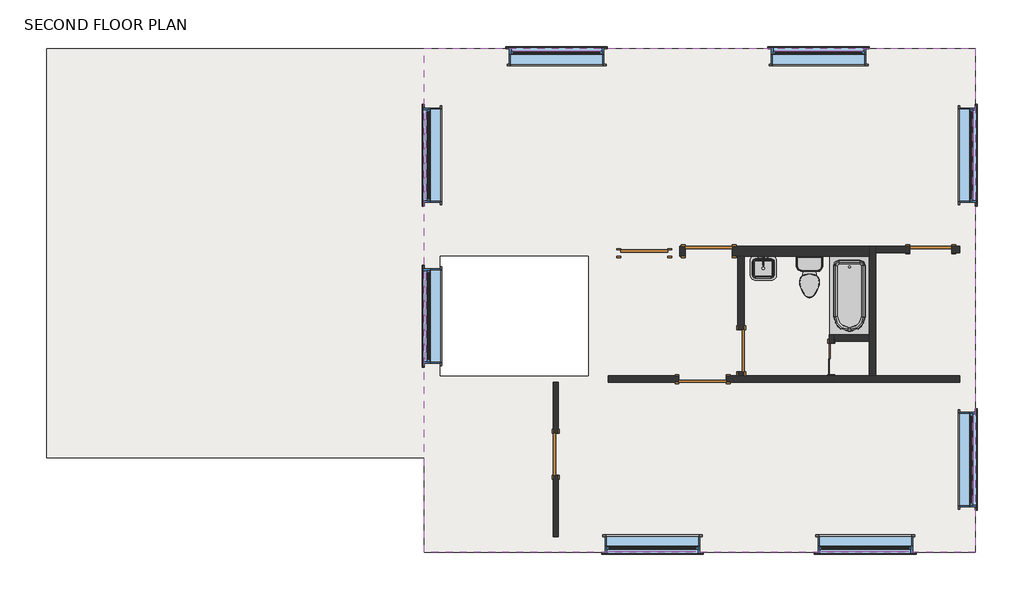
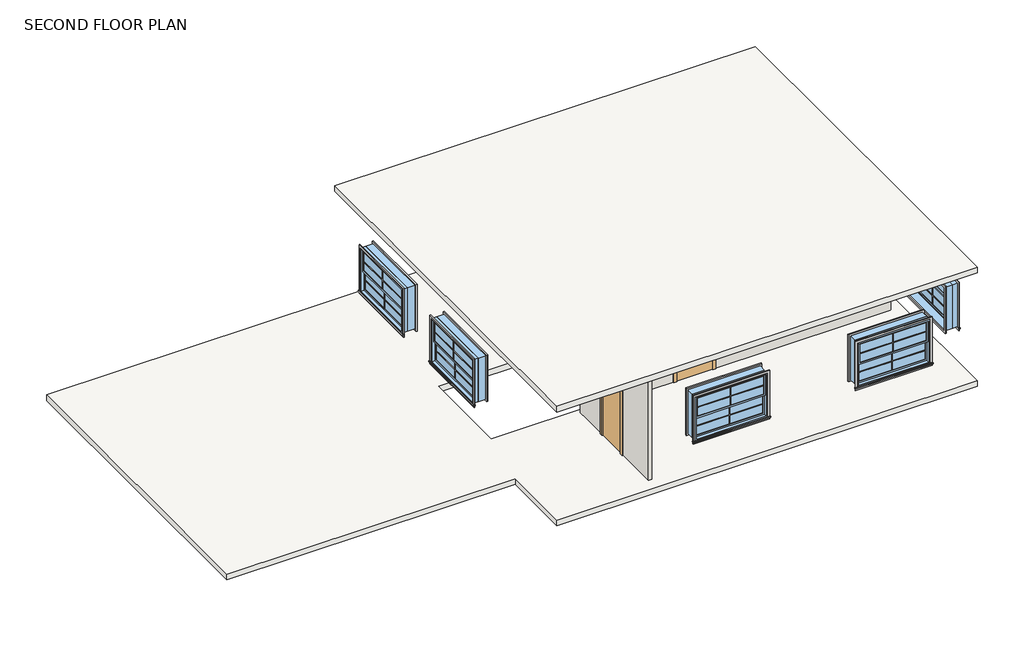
# One storey: 32 proxies, 8 walls, 8 windows, 7 doors, 3 flow terminals, 2 slabs.
"""IFC4 building model written with IfcOpenShell, lengths in millimetres."""

from ifc_helpers import new_model, si_unit, frame, origin, place, context, project, spatial, polyline, outline, extrude, faceted_brep, transform, mapped, element, save
from components import muntin_pattern_2x2_muntin_pattern_2x2_39947d6e, muntin_pattern_2x2_muntin_pattern_2x2_fe1a6047, trim_window_exterior_flat_with_sill_0b531897, trim_window_exterior_flat_with_sill_ab25b066, trim_window_interior_flat_picture_frame_a9dea4fc, trim_window_interior_flat_picture_frame_6e5e5000, door_d2b762fc, door_3875bb2d, door_e975d77b, m_single_flush_3_x_7_d4803db9, m_single_flush_3_x_7_66516a20, m_single_flush_3_x_7_38056b6e, flow_terminal_62a433f7, toilet_domestic_3d1_toilet_domestic_3d_f7549cf7, toilet_domestic_3d1_toilet_domestic_3d_183bbd19, tub_rectangular_3d_tub_rectangular_5_7cde22e7, window_double_hung_6_window_203ecefd, window_double_hung_6_window_37ab507d

model = new_model("IFC4")

# Units and contexts
model_context = context("Model", 3, world=origin())
ifc_project = project(units=[si_unit("LENGTHUNIT", "METRE", prefix="MILLI")], contexts=[model_context])

# Site, building, storey
site = spatial("IfcSite", under=ifc_project)
building = spatial("IfcBuilding", under=site)
storey = spatial("IfcBuildingStorey", under=building, Name="SECOND FLOOR PLAN", Elevation=2844.8)

# Proxies
placement = place(None, origin())
muntin_pattern_2x2_muntin_pattern_2x2_shape = muntin_pattern_2x2_muntin_pattern_2x2_39947d6e(model_context)
element("IfcBuildingElementProxy", 1, Name="Muntin Pattern_2x2 : Muntin Pattern_2x2", ObjectType="Muntin Pattern_2x2 : Muntin Pattern_2x2", at=placement, inside=storey, context=model_context, shape_type="MappedRepresentation", body=[
    mapped(muntin_pattern_2x2_muntin_pattern_2x2_shape, transform((11199.0504798, 8523.8490306, 4365.625), x_axis=(0.0, -1.0, 0.0), y_axis=(1.0, 0.0, 0.0), z_axis=(0.0, 0.0, 1.0))),
])
element("IfcBuildingElementProxy", 2, Name="Muntin Pattern_2x2 : Muntin Pattern_2x2", ObjectType="Muntin Pattern_2x2 : Muntin Pattern_2x2", at=placement, inside=storey, context=model_context, shape_type="MappedRepresentation", body=[
    mapped(muntin_pattern_2x2_muntin_pattern_2x2_shape, transform((11243.5004798, 8523.8490306, 3835.4), x_axis=(0.0, -1.0, 0.0), y_axis=(1.0, 0.0, 0.0), z_axis=(0.0, 0.0, 1.0))),
])
muntin_pattern_2x2_muntin_pattern_2x2_2_shape = muntin_pattern_2x2_muntin_pattern_2x2_fe1a6047(model_context)
element("IfcBuildingElementProxy", 3, Name="Muntin Pattern_2x2 : Muntin Pattern_2x2", ObjectType="Muntin Pattern_2x2 : Muntin Pattern_2x2", at=placement, inside=storey, context=model_context, shape_type="MappedRepresentation", body=[
    mapped(muntin_pattern_2x2_muntin_pattern_2x2_2_shape, transform((18795.0737197, 13670.5240306, 4365.625), x_axis=(1.0, 0.0, 0.0), y_axis=(0.0, 1.0, 0.0), z_axis=(0.0, 0.0, 1.0))),
])
element("IfcBuildingElementProxy", 4, Name="Muntin Pattern_2x2 : Muntin Pattern_2x2", ObjectType="Muntin Pattern_2x2 : Muntin Pattern_2x2", at=placement, inside=storey, context=model_context, shape_type="MappedRepresentation", body=[
    mapped(muntin_pattern_2x2_muntin_pattern_2x2_2_shape, transform((18795.0737197, 13626.0740306, 3835.4), x_axis=(1.0, 0.0, 0.0), y_axis=(0.0, 1.0, 0.0), z_axis=(0.0, 0.0, 1.0))),
])
element("IfcBuildingElementProxy", 5, Name="Muntin Pattern_2x2 : Muntin Pattern_2x2", ObjectType="Muntin Pattern_2x2 : Muntin Pattern_2x2", at=placement, inside=storey, context=model_context, shape_type="MappedRepresentation", body=[
    mapped(muntin_pattern_2x2_muntin_pattern_2x2_2_shape, transform((13723.9692298, 13670.5240306, 4365.625), x_axis=(1.0, 0.0, 0.0), y_axis=(0.0, 1.0, 0.0), z_axis=(0.0, 0.0, 1.0))),
])
element("IfcBuildingElementProxy", 6, Name="Muntin Pattern_2x2 : Muntin Pattern_2x2", ObjectType="Muntin Pattern_2x2 : Muntin Pattern_2x2", at=placement, inside=storey, context=model_context, shape_type="MappedRepresentation", body=[
    mapped(muntin_pattern_2x2_muntin_pattern_2x2_2_shape, transform((13723.9692298, 13626.0740306, 3835.4), x_axis=(1.0, 0.0, 0.0), y_axis=(0.0, 1.0, 0.0), z_axis=(0.0, 0.0, 1.0))),
])
element("IfcBuildingElementProxy", 7, Name="Muntin Pattern_2x2 : Muntin Pattern_2x2", ObjectType="Muntin Pattern_2x2 : Muntin Pattern_2x2", at=placement, inside=storey, context=model_context, shape_type="MappedRepresentation", body=[
    mapped(muntin_pattern_2x2_muntin_pattern_2x2_2_shape, transform((19698.5254798, 3986.7740306, 4365.625), x_axis=(-1.0, 0.0, 0.0), y_axis=(0.0, -1.0, 0.0), z_axis=(0.0, 0.0, 1.0))),
])
element("IfcBuildingElementProxy", 8, Name="Muntin Pattern_2x2 : Muntin Pattern_2x2", ObjectType="Muntin Pattern_2x2 : Muntin Pattern_2x2", at=placement, inside=storey, context=model_context, shape_type="MappedRepresentation", body=[
    mapped(muntin_pattern_2x2_muntin_pattern_2x2_2_shape, transform((19698.5254798, 4031.2240306, 3835.4), x_axis=(-1.0, 0.0, 0.0), y_axis=(0.0, -1.0, 0.0), z_axis=(0.0, 0.0, 1.0))),
])
element("IfcBuildingElementProxy", 9, Name="Muntin Pattern_2x2 : Muntin Pattern_2x2", ObjectType="Muntin Pattern_2x2 : Muntin Pattern_2x2", at=placement, inside=storey, context=model_context, shape_type="MappedRepresentation", body=[
    mapped(muntin_pattern_2x2_muntin_pattern_2x2_2_shape, transform((15579.677093, 3986.7740306, 4365.625), x_axis=(-1.0, 0.0, 0.0), y_axis=(0.0, -1.0, 0.0), z_axis=(0.0, 0.0, 1.0))),
])
element("IfcBuildingElementProxy", 10, Name="Muntin Pattern_2x2 : Muntin Pattern_2x2", ObjectType="Muntin Pattern_2x2 : Muntin Pattern_2x2", at=placement, inside=storey, context=model_context, shape_type="MappedRepresentation", body=[
    mapped(muntin_pattern_2x2_muntin_pattern_2x2_2_shape, transform((15579.677093, 4031.2240306, 3835.4), x_axis=(-1.0, 0.0, 0.0), y_axis=(0.0, -1.0, 0.0), z_axis=(0.0, 0.0, 1.0))),
])
element("IfcBuildingElementProxy", 11, Name="Muntin Pattern_2x2 : Muntin Pattern_2x2", ObjectType="Muntin Pattern_2x2 : Muntin Pattern_2x2", at=placement, inside=storey, context=model_context, shape_type="MappedRepresentation", body=[
    mapped(muntin_pattern_2x2_muntin_pattern_2x2_2_shape, transform((21797.2004798, 5749.6927806, 4365.625), x_axis=(0.0, -1.0, 0.0), y_axis=(1.0, 0.0, 0.0), z_axis=(0.0, 0.0, 1.0))),
])
element("IfcBuildingElementProxy", 12, Name="Muntin Pattern_2x2 : Muntin Pattern_2x2", ObjectType="Muntin Pattern_2x2 : Muntin Pattern_2x2", at=placement, inside=storey, context=model_context, shape_type="MappedRepresentation", body=[
    mapped(muntin_pattern_2x2_muntin_pattern_2x2_2_shape, transform((21752.7504798, 5749.6927806, 3835.4), x_axis=(0.0, -1.0, 0.0), y_axis=(1.0, 0.0, 0.0), z_axis=(0.0, 0.0, 1.0))),
])
element("IfcBuildingElementProxy", 13, Name="Muntin Pattern_2x2 : Muntin Pattern_2x2", ObjectType="Muntin Pattern_2x2 : Muntin Pattern_2x2", at=placement, inside=storey, context=model_context, shape_type="MappedRepresentation", body=[
    mapped(muntin_pattern_2x2_muntin_pattern_2x2_2_shape, transform((21797.2004798, 11639.3177806, 4365.625), x_axis=(0.0, -1.0, 0.0), y_axis=(1.0, 0.0, 0.0), z_axis=(0.0, 0.0, 1.0))),
])
element("IfcBuildingElementProxy", 14, Name="Muntin Pattern_2x2 : Muntin Pattern_2x2", ObjectType="Muntin Pattern_2x2 : Muntin Pattern_2x2", at=placement, inside=storey, context=model_context, shape_type="MappedRepresentation", body=[
    mapped(muntin_pattern_2x2_muntin_pattern_2x2_2_shape, transform((21752.7504798, 11639.3177806, 3835.4), x_axis=(0.0, -1.0, 0.0), y_axis=(1.0, 0.0, 0.0), z_axis=(0.0, 0.0, 1.0))),
])
element("IfcBuildingElementProxy", 15, Name="Muntin Pattern_2x2 : Muntin Pattern_2x2", ObjectType="Muntin Pattern_2x2 : Muntin Pattern_2x2", at=placement, inside=storey, context=model_context, shape_type="MappedRepresentation", body=[
    mapped(muntin_pattern_2x2_muntin_pattern_2x2_2_shape, transform((11199.0504798, 11639.3177806, 4365.625), x_axis=(0.0, 1.0, 0.0), y_axis=(-1.0, 0.0, 0.0), z_axis=(0.0, 0.0, 1.0))),
])
element("IfcBuildingElementProxy", 16, Name="Muntin Pattern_2x2 : Muntin Pattern_2x2", ObjectType="Muntin Pattern_2x2 : Muntin Pattern_2x2", at=placement, inside=storey, context=model_context, shape_type="MappedRepresentation", body=[
    mapped(muntin_pattern_2x2_muntin_pattern_2x2_2_shape, transform((11243.5004798, 11639.3177806, 3835.4), x_axis=(0.0, 1.0, 0.0), y_axis=(-1.0, 0.0, 0.0), z_axis=(0.0, 0.0, 1.0))),
])
trim_window_exterior_flat_with_sill_shape = trim_window_exterior_flat_with_sill_0b531897(model_context)
element("IfcBuildingElementProxy", 17, Name="Trim-Window-Exterior-Flat : with Sill", ObjectType="Trim-Window-Exterior-Flat : with Sill", at=placement, inside=storey, context=model_context, shape_type="MappedRepresentation", body=[
    mapped(trim_window_exterior_flat_with_sill_shape, transform((11164.1254798, 8523.8490306, 4927.6), x_axis=(0.0, 1.0, 0.0), y_axis=(0.0, 0.0, -1.0), z_axis=(-1.0, 0.0, 0.0))),
])
trim_window_exterior_flat_with_sill_2_shape = trim_window_exterior_flat_with_sill_ab25b066(model_context)
element("IfcBuildingElementProxy", 18, Name="Trim-Window-Exterior-Flat : with Sill", ObjectType="Trim-Window-Exterior-Flat : with Sill", at=placement, inside=storey, context=model_context, shape_type="MappedRepresentation", body=[
    mapped(trim_window_exterior_flat_with_sill_2_shape, transform((18795.0737197, 13705.4490306, 4927.6), x_axis=(-1.0, 0.0, 0.0), y_axis=(0.0, 0.0, 1.0), z_axis=(0.0, 1.0, 0.0))),
])
element("IfcBuildingElementProxy", 19, Name="Trim-Window-Exterior-Flat : with Sill", ObjectType="Trim-Window-Exterior-Flat : with Sill", at=placement, inside=storey, context=model_context, shape_type="MappedRepresentation", body=[
    mapped(trim_window_exterior_flat_with_sill_2_shape, transform((13723.9692298, 13705.4490306, 4927.6), x_axis=(-1.0, 0.0, 0.0), y_axis=(0.0, 0.0, 1.0), z_axis=(0.0, 1.0, 0.0))),
])
element("IfcBuildingElementProxy", 20, Name="Trim-Window-Exterior-Flat : with Sill", ObjectType="Trim-Window-Exterior-Flat : with Sill", at=placement, inside=storey, context=model_context, shape_type="MappedRepresentation", body=[
    mapped(trim_window_exterior_flat_with_sill_2_shape, transform((19698.5254798, 3951.8490306, 4927.6), x_axis=(1.0, 0.0, 0.0), y_axis=(0.0, 0.0, 1.0), z_axis=(0.0, -1.0, 0.0))),
])
element("IfcBuildingElementProxy", 21, Name="Trim-Window-Exterior-Flat : with Sill", ObjectType="Trim-Window-Exterior-Flat : with Sill", at=placement, inside=storey, context=model_context, shape_type="MappedRepresentation", body=[
    mapped(trim_window_exterior_flat_with_sill_2_shape, transform((15579.677093, 3951.8490306, 4927.6), x_axis=(1.0, 0.0, 0.0), y_axis=(0.0, 0.0, 1.0), z_axis=(0.0, -1.0, 0.0))),
])
element("IfcBuildingElementProxy", 22, Name="Trim-Window-Exterior-Flat : with Sill", ObjectType="Trim-Window-Exterior-Flat : with Sill", at=placement, inside=storey, context=model_context, shape_type="MappedRepresentation", body=[
    mapped(trim_window_exterior_flat_with_sill_2_shape, transform((21832.1254798, 5749.6927806, 4927.6), x_axis=(0.0, 1.0, 0.0), y_axis=(0.0, 0.0, 1.0), z_axis=(1.0, 0.0, 0.0))),
])
element("IfcBuildingElementProxy", 23, Name="Trim-Window-Exterior-Flat : with Sill", ObjectType="Trim-Window-Exterior-Flat : with Sill", at=placement, inside=storey, context=model_context, shape_type="MappedRepresentation", body=[
    mapped(trim_window_exterior_flat_with_sill_2_shape, transform((21832.1254798, 11639.3177806, 4927.6), x_axis=(0.0, 1.0, 0.0), y_axis=(0.0, 0.0, 1.0), z_axis=(1.0, 0.0, 0.0))),
])
element("IfcBuildingElementProxy", 24, Name="Trim-Window-Exterior-Flat : with Sill", ObjectType="Trim-Window-Exterior-Flat : with Sill", at=placement, inside=storey, context=model_context, shape_type="MappedRepresentation", body=[
    mapped(trim_window_exterior_flat_with_sill_2_shape, transform((11164.1254798, 11639.3177806, 4927.6), x_axis=(0.0, -1.0, 0.0), y_axis=(0.0, 0.0, 1.0), z_axis=(-1.0, 0.0, 0.0))),
])
trim_window_interior_flat_picture_frame_shape = trim_window_interior_flat_picture_frame_a9dea4fc(model_context)
element("IfcBuildingElementProxy", 25, Name="Trim-Window-Interior-Flat : Picture Frame", ObjectType="Trim-Window-Interior-Flat : Picture Frame", at=placement, inside=storey, context=model_context, shape_type="MappedRepresentation", body=[
    mapped(trim_window_interior_flat_picture_frame_shape, transform((11468.9254798, 8523.8490306, 4927.6), x_axis=(0.0, -1.0, 0.0), y_axis=(0.0, 0.0, -1.0), z_axis=(1.0, 0.0, 0.0))),
])
trim_window_interior_flat_picture_frame_2_shape = trim_window_interior_flat_picture_frame_6e5e5000(model_context)
element("IfcBuildingElementProxy", 26, Name="Trim-Window-Interior-Flat : Picture Frame", ObjectType="Trim-Window-Interior-Flat : Picture Frame", at=placement, inside=storey, context=model_context, shape_type="MappedRepresentation", body=[
    mapped(trim_window_interior_flat_picture_frame_2_shape, transform((18795.0737197, 13400.6490306, 4927.6), x_axis=(1.0, 0.0, 0.0), y_axis=(0.0, 0.0, 1.0), z_axis=(0.0, -1.0, 0.0))),
])
element("IfcBuildingElementProxy", 27, Name="Trim-Window-Interior-Flat : Picture Frame", ObjectType="Trim-Window-Interior-Flat : Picture Frame", at=placement, inside=storey, context=model_context, shape_type="MappedRepresentation", body=[
    mapped(trim_window_interior_flat_picture_frame_2_shape, transform((13723.9692298, 13400.6490306, 4927.6), x_axis=(1.0, 0.0, 0.0), y_axis=(0.0, 0.0, 1.0), z_axis=(0.0, -1.0, 0.0))),
])
element("IfcBuildingElementProxy", 28, Name="Trim-Window-Interior-Flat : Picture Frame", ObjectType="Trim-Window-Interior-Flat : Picture Frame", at=placement, inside=storey, context=model_context, shape_type="MappedRepresentation", body=[
    mapped(trim_window_interior_flat_picture_frame_2_shape, transform((19698.5254798, 4256.6490306, 4927.6), x_axis=(-1.0, 0.0, 0.0), y_axis=(0.0, 0.0, 1.0), z_axis=(0.0, 1.0, 0.0))),
])
element("IfcBuildingElementProxy", 29, Name="Trim-Window-Interior-Flat : Picture Frame", ObjectType="Trim-Window-Interior-Flat : Picture Frame", at=placement, inside=storey, context=model_context, shape_type="MappedRepresentation", body=[
    mapped(trim_window_interior_flat_picture_frame_2_shape, transform((15579.677093, 4256.6490306, 4927.6), x_axis=(-1.0, 0.0, 0.0), y_axis=(0.0, 0.0, 1.0), z_axis=(0.0, 1.0, 0.0))),
])
element("IfcBuildingElementProxy", 30, Name="Trim-Window-Interior-Flat : Picture Frame", ObjectType="Trim-Window-Interior-Flat : Picture Frame", at=placement, inside=storey, context=model_context, shape_type="MappedRepresentation", body=[
    mapped(trim_window_interior_flat_picture_frame_2_shape, transform((21527.3254798, 5749.6927806, 4927.6), x_axis=(0.0, -1.0, 0.0), y_axis=(0.0, 0.0, 1.0), z_axis=(-1.0, 0.0, 0.0))),
])
element("IfcBuildingElementProxy", 31, Name="Trim-Window-Interior-Flat : Picture Frame", ObjectType="Trim-Window-Interior-Flat : Picture Frame", at=placement, inside=storey, context=model_context, shape_type="MappedRepresentation", body=[
    mapped(trim_window_interior_flat_picture_frame_2_shape, transform((21527.3254798, 11639.3177806, 4927.6), x_axis=(0.0, -1.0, 0.0), y_axis=(0.0, 0.0, 1.0), z_axis=(-1.0, 0.0, 0.0))),
])
element("IfcBuildingElementProxy", 32, Name="Trim-Window-Interior-Flat : Picture Frame", ObjectType="Trim-Window-Interior-Flat : Picture Frame", at=placement, inside=storey, context=model_context, shape_type="MappedRepresentation", body=[
    mapped(trim_window_interior_flat_picture_frame_2_shape, transform((11468.9254798, 11639.3177806, 4927.6), x_axis=(0.0, 1.0, 0.0), y_axis=(0.0, 0.0, 1.0), z_axis=(1.0, 0.0, 0.0))),
])

# Doors
door_shape = door_d2b762fc(model_context)
element("IfcDoor", 33, ObjectType="Door-Bifold_2-Panel_Flush_SlimFold_Dunbarton : 2' - 0\" x 6' - 8\"", at=placement, inside=storey, context=model_context, shape_type="MappedRepresentation", body=[
    mapped(door_shape, transform((19026.2113964, 7544.3615306, 2844.8), x_axis=(0.0, 1.0, 0.0), y_axis=(-1.0, 0.0, 0.0), z_axis=(0.0, 0.0, 1.0))),
])
door_2_shape = door_3875bb2d(model_context)
element("IfcDoor", 34, ObjectType="M_Single-Flush : 2'-8\"", at=placement, inside=storey, context=model_context, shape_type="MappedRepresentation", body=[
    mapped(door_2_shape, transform((13706.427093, 5851.2927806, 2844.8), x_axis=(0.0, -1.0, 0.0), y_axis=(1.0, 0.0, 0.0), z_axis=(0.0, 0.0, 1.0))),
])
door_3_shape = door_e975d77b(model_context)
element("IfcDoor", 35, ObjectType="M_Single-Flush : 2'-8\"", at=placement, inside=storey, context=model_context, shape_type="MappedRepresentation", body=[
    mapped(door_3_shape, transform((17295.9238667, 7852.3365306, 2844.8), x_axis=(0.0, -1.0, 0.0), y_axis=(1.0, 0.0, 0.0), z_axis=(0.0, 0.0, 1.0))),
])
element("IfcDoor", 36, ObjectType="M_Single-Flush : 2'-8\"", at=placement, inside=storey, context=model_context, shape_type="MappedRepresentation", body=[
    mapped(door_3_shape, transform((20968.5254798, 9816.0740306, 2844.8), x_axis=(1.0, 0.0, 0.0), y_axis=(0.0, 1.0, 0.0), z_axis=(0.0, 0.0, 1.0))),
])
m_single_flush_3_x_7_shape = m_single_flush_3_x_7_d4803db9(model_context)
element("IfcDoor", 37, ObjectType="M_Single-Flush : 3' x 7'", at=placement, inside=storey, context=model_context, shape_type="MappedRepresentation", body=[
    mapped(m_single_flush_3_x_7_shape, transform((15420.2129798, 9743.0490306, 2844.8), x_axis=(1.0, 0.0, 0.0), y_axis=(0.0, 1.0, 0.0), z_axis=(0.0, 0.0, 1.0))),
])
m_single_flush_3_x_7_2_shape = m_single_flush_3_x_7_66516a20(model_context)
element("IfcDoor", 38, ObjectType="M_Single-Flush : 3' x 7'", at=placement, inside=storey, context=model_context, shape_type="MappedRepresentation", body=[
    mapped(m_single_flush_3_x_7_2_shape, transform((16667.2738667, 9779.5615306, 2844.8), x_axis=(-1.0, 0.0, 0.0), y_axis=(0.0, -1.0, 0.0), z_axis=(0.0, 0.0, 1.0))),
])
m_single_flush_3_x_7_3_shape = m_single_flush_3_x_7_38056b6e(model_context)
element("IfcDoor", 39, ObjectType="M_Single-Flush : 3' x 7'", at=placement, inside=storey, context=model_context, shape_type="MappedRepresentation", body=[
    mapped(m_single_flush_3_x_7_3_shape, transform((16548.9254798, 7304.6490306, 2844.8), x_axis=(1.0, 0.0, 0.0), y_axis=(0.0, 1.0, 0.0), z_axis=(0.0, 0.0, 1.0))),
])

# Flow terminals
flow_terminal_shape = flow_terminal_62a433f7(model_context)
element("IfcFlowTerminal", 40, ObjectType="Sink Vanity-Square : 20\" x 18\"", at=placement, inside=storey, context=model_context, shape_type="MappedRepresentation", body=[
    mapped(flow_terminal_shape, transform((17708.6313231, 9500.9911295, 2844.8), x_axis=(1.0, 0.0, 0.0), y_axis=(0.0, 1.0, 0.0), z_axis=(0.0, 0.0, 1.0))),
])
toilet_domestic_3d1_toilet_domestic_3d_shape = toilet_domestic_3d1_toilet_domestic_3d_f7549cf7(model_context)
toilet_domestic_3d1_toilet_domestic_3d_2_shape = toilet_domestic_3d1_toilet_domestic_3d_183bbd19(model_context)
element("IfcFlowTerminal", 41, ObjectType="Toilet-Domestic-3D1 : Toilet-Domestic-3D", at=placement, inside=storey, context=model_context, shape_type="MappedRepresentation", body=[
    mapped(toilet_domestic_3d1_toilet_domestic_3d_shape, transform((18619.0254798, 9186.4405033, 2844.8), x_axis=(1.0, 0.0, 0.0), y_axis=(0.0, 1.0, 0.0), z_axis=(0.0, 0.0, 1.0))),
    mapped(toilet_domestic_3d1_toilet_domestic_3d_2_shape, transform((18619.0254798, 9186.4405033, 2844.8), x_axis=(1.0, 0.0, 0.0), y_axis=(0.0, 1.0, 0.0), z_axis=(0.0, 0.0, 1.0))),
])
tub_rectangular_3d_tub_rectangular_5_shape = tub_rectangular_3d_tub_rectangular_5_7cde22e7(model_context)
element("IfcFlowTerminal", 42, ObjectType="Tub-Rectangular-3D : Tub-Rectangular-3D", at=placement, inside=storey, context=model_context, shape_type="MappedRepresentation", body=[
    mapped(tub_rectangular_3d_tub_rectangular_5_shape, transform((19835.9238667, 8570.5335619, 2844.8), x_axis=(0.0, -1.0, 0.0), y_axis=(1.0, 0.0, 0.0), z_axis=(0.0, 0.0, 1.0))),
])

# Slabs
element("IfcSlab", 43, ObjectType="MultiFamilyGeneric", at=placement, inside=storey, context=model_context, shape_type="SweptSolid", body=[
    extrude(outline(polyline([(21832.1254798, 13705.4490306), (21832.1254798, 3951.8490306), (11164.1254798, 3951.8490306), (11164.1254798, 5780.6490306), (3848.9254798, 5780.6490306), (3848.9254798, 13705.4490306), (21832.1254798, 13705.4490306)]), holes=[polyline([(11468.9254798, 7366.5615306), (14339.1254798, 7366.5615306), (14339.1254798, 9681.1365306), (11468.9254798, 9681.1365306), (11468.9254798, 7366.5615306)])]), frame((0.0, 0.0, 2692.4), z_axis=(0.0, 0.0, 1.0), x_axis=(1.0, 0.0, 0.0)), (0.0, 0.0, 1.0), 152.4),
])
element("IfcSlab", 44, ObjectType="MultiFamilyGeneric", at=placement, inside=storey, context=model_context, shape_type="SweptSolid", body=[
    extrude(outline(polyline([(21832.1254798, 13705.4490306), (21832.1254798, 3951.8490306), (11164.1254798, 3951.8490306), (11164.1254798, 13705.4490306), (21832.1254798, 13705.4490306)])), frame((0.0, 0.0, 5740.4), z_axis=(0.0, 0.0, 1.0), x_axis=(1.0, 0.0, 0.0)), (0.0, 0.0, 1.0), 152.4),
])

# Walls
element("IfcWall", 45, ObjectType="Generic - 3 1/2\"", at=placement, inside=storey, context=model_context, shape_type="Brep", body=[
    faceted_brep([(18997.7238667, 7366.5615306, 2844.8), (18997.7238667, 7366.5615306, 5740.4), (18997.7238667, 8163.4865306, 5740.4), (18997.7238667, 8163.4865306, 2844.8), (18997.7238667, 8001.5615306, 2844.8), (18997.7238667, 8001.5615306, 4876.8), (18997.7238667, 7391.9615306, 4876.8), (18997.7238667, 7391.9615306, 2844.8), (19086.6238667, 7366.5615306, 5740.4), (19086.6238667, 7366.5615306, 2844.8), (19086.6238667, 7391.9615306, 2844.8), (19086.6238667, 7391.9615306, 4876.8), (19086.6238667, 8001.5615306, 4876.8), (19086.6238667, 8001.5615306, 2844.8), (19086.6238667, 8039.6615306, 2844.8), (19086.6238667, 8163.4865306, 2844.8), (19086.6238667, 8163.4865306, 5740.4), (19086.6238667, 8039.6615306, 5740.4)], [[[0, 1, 2, 3, 4, 5, 6, 7]], [[8, 9, 10, 11, 12, 13, 14, 15, 16, 17]], [[9, 0, 7, 10]], [[3, 15, 14, 13, 4]], [[1, 0, 9, 8]], [[3, 2, 16, 15]], [[12, 5, 4, 13]], [[5, 12, 11, 6]], [[6, 11, 10, 7]], [[2, 1, 8, 17, 16]]]),
])
element("IfcWall", 46, ObjectType="Generic - 3 1/2\"", at=placement, inside=storey, context=model_context, shape_type="SweptSolid", body=[
    extrude(outline(polyline([(5444.8927806, 4978.4), (5444.8927806, 2844.8), (4256.6490306, 2844.8), (4256.6490306, 5689.6), (7242.7365306, 5689.6), (7242.7365306, 2844.8), (6257.6927806, 2844.8), (6257.6927806, 4978.4), (5444.8927806, 4978.4)])), frame((13661.977093, 0.0, 0.0), z_axis=(1.0, 0.0, 0.0), x_axis=(0.0, 1.0, 0.0)), (0.0, 0.0, 1.0), 88.9),
])
element("IfcWall", 47, ObjectType="Generic - 4 7/8\"", at=placement, inside=storey, context=model_context, shape_type="Brep", body=[
    faceted_brep([(19897.8363667, 7366.5615306, 2844.8), (19897.8363667, 9754.1615306, 2844.8), (19897.8363667, 9877.9865306, 2844.8), (19897.8363667, 9877.9865306, 5740.4), (19897.8363667, 9754.1615306, 5740.4), (19897.8363667, 7366.5615306, 5740.4), (19774.0113667, 7366.5615306, 2844.8), (19774.0113667, 7366.5615306, 5740.4), (19774.0113667, 8039.6615306, 5740.4), (19774.0113667, 8163.4865306, 5740.4), (19774.0113667, 9681.1365306, 5740.4), (19774.0113667, 9877.9865306, 5740.4), (19774.0113667, 9877.9865306, 2844.8), (19774.0113667, 9681.1365306, 2844.8), (19774.0113667, 8163.4865306, 2844.8), (19774.0113667, 8039.6615306, 2844.8)], [[[0, 1, 2, 3, 4, 5]], [[6, 7, 8, 9, 10, 11, 12, 13, 14, 15]], [[2, 1, 0, 6, 15, 14, 13, 12]], [[3, 2, 12, 11]], [[0, 5, 7, 6]], [[5, 4, 3, 11, 10, 9, 8, 7]]]),
])
element("IfcWall", 48, ObjectType="Generic - 4 7/8\"", at=placement, inside=storey, context=model_context, shape_type="SweptSolid", body=[
    extrude(outline(polyline([(4978.4, 21374.9254798), (2844.8, 21374.9254798), (2844.8, 21527.3254798), (5740.4, 21527.3254798), (5740.4, 19897.8363667), (2844.8, 19897.8363667), (2844.8, 20562.1254798), (4978.4, 20562.1254798), (4978.4, 21374.9254798)])), frame((0.0, 9754.1615306, 0.0), z_axis=(0.0, 1.0, 0.0), x_axis=(0.0, 0.0, 1.0)), (0.0, 0.0, 1.0), 123.825),
])
element("IfcWall", 49, ObjectType="Generic - 4 7/8\"", at=placement, inside=storey, context=model_context, shape_type="SweptSolid", body=[
    extrude(outline(polyline([(9681.1365306, 5740.4), (9681.1365306, 2844.8), (8258.7365306, 2844.8), (8258.7365306, 4978.4), (7445.9365306, 4978.4), (7445.9365306, 2844.8), (7366.5615306, 2844.8), (7366.5615306, 5740.4), (9681.1365306, 5740.4)])), frame((17234.0113667, 0.0, 0.0), z_axis=(1.0, 0.0, 0.0), x_axis=(0.0, 1.0, 0.0)), (0.0, 0.0, 1.0), 123.825),
])
element("IfcWall", 50, ObjectType="Interior - 4 7/8\"", at=placement, inside=storey, context=model_context, shape_type="Brep", body=[
    faceted_brep([(14720.1254798, 7242.7365306, 5740.4), (14720.1254798, 7242.7365306, 2844.8), (16091.7254798, 7242.7365306, 2844.8), (16091.7254798, 7242.7365306, 4978.4), (17006.1254798, 7242.7365306, 4978.4), (17006.1254798, 7242.7365306, 2844.8), (21527.3254798, 7242.7365306, 2844.8), (21527.3254798, 7242.7365306, 5740.4), (14720.1254798, 7366.5615306, 2844.8), (14720.1254798, 7366.5615306, 5740.4), (17234.0113667, 7366.5615306, 5740.4), (17357.8363667, 7366.5615306, 5740.4), (18997.7238667, 7366.5615306, 5740.4), (19086.6238667, 7366.5615306, 5740.4), (19774.0113667, 7366.5615306, 5740.4), (19897.8363667, 7366.5615306, 5740.4), (21527.3254798, 7366.5615306, 5740.4), (21527.3254798, 7366.5615306, 2844.8), (19897.8363667, 7366.5615306, 2844.8), (19774.0113667, 7366.5615306, 2844.8), (19086.6238667, 7366.5615306, 2844.8), (18997.7238667, 7366.5615306, 2844.8), (17357.8363667, 7366.5615306, 2844.8), (17234.0113667, 7366.5615306, 2844.8), (17006.1254798, 7366.5615306, 2844.8), (17006.1254798, 7366.5615306, 4978.4), (16091.7254798, 7366.5615306, 4978.4), (16091.7254798, 7366.5615306, 2844.8)], [[[0, 1, 2, 3, 4, 5, 6, 7]], [[8, 9, 10, 11, 12, 13, 14, 15, 16, 17, 18, 19, 20, 21, 22, 23, 24, 25, 26, 27]], [[1, 8, 27, 2]], [[17, 6, 5, 24, 23, 22, 21, 20, 19, 18]], [[1, 0, 9, 8]], [[4, 25, 24, 5]], [[25, 4, 3, 26]], [[26, 3, 2, 27]], [[7, 6, 17, 16]], [[0, 7, 16, 15, 14, 13, 12, 11, 10, 9]]]),
])
element("IfcWall", 51, ObjectType="Interior - 4 7/8\"", at=placement, inside=storey, context=model_context, shape_type="SweptSolid", body=[
    extrude(outline(polyline([(19774.0113667, 8039.6615306), (19086.6238667, 8039.6615306), (19086.6238667, 8163.4865306), (19774.0113667, 8163.4865306), (19774.0113667, 8039.6615306)])), frame((0.0, 0.0, 2844.8), z_axis=(0.0, 0.0, 1.0), x_axis=(1.0, 0.0, 0.0)), (0.0, 0.0, 1.0), 2895.6),
])
element("IfcWall", 52, ObjectType="Plumbing 7 3/4\"", at=placement, inside=storey, context=model_context, shape_type="Brep", body=[
    faceted_brep([(16102.8379798, 9681.1365306, 2844.8), (16210.0738667, 9681.1365306, 2844.8), (16210.0738667, 9681.1365306, 4978.4), (17124.4738667, 9681.1365306, 4978.4), (17124.4738667, 9681.1365306, 2844.8), (17234.0113667, 9681.1365306, 2844.8), (17357.8363667, 9681.1365306, 2844.8), (19774.0113667, 9681.1365306, 2844.8), (19774.0113667, 9681.1365306, 5740.4), (17357.8363667, 9681.1365306, 5740.4), (17234.0113667, 9681.1365306, 5740.4), (16102.8379798, 9681.1365306, 5740.4), (16210.0738667, 9877.9865306, 4978.4), (16210.0738667, 9877.9865306, 2844.8), (16102.8379798, 9877.9865306, 2844.8), (16102.8379798, 9877.9865306, 5740.4), (19774.0113667, 9877.9865306, 5740.4), (19774.0113667, 9877.9865306, 2844.8), (17124.4738667, 9877.9865306, 2844.8), (17124.4738667, 9877.9865306, 4978.4)], [[[0, 1, 2, 3, 4, 5, 6, 7, 8, 9, 10, 11]], [[12, 13, 14, 15, 16, 17, 18, 19]], [[18, 17, 7, 6, 5, 4]], [[14, 13, 1, 0]], [[0, 11, 15, 14]], [[8, 7, 17, 16]], [[2, 1, 13, 12]], [[3, 2, 12, 19]], [[4, 3, 19, 18]], [[11, 10, 9, 8, 16, 15]]]),
])

# Windows
window_double_hung_6_window_shape = window_double_hung_6_window_203ecefd(model_context)
element("IfcWindow", 53, ObjectType="Window-Double-Hung : 6' WINDOW", at=placement, inside=storey, context=model_context, shape_type="MappedRepresentation", body=[
    mapped(window_double_hung_6_window_shape, transform((11316.5254798, 8523.8490306, 2844.8), x_axis=(0.0, -1.0, 0.0), y_axis=(1.0, 0.0, 0.0), z_axis=(0.0, 0.0, 1.0))),
])
window_double_hung_6_window_2_shape = window_double_hung_6_window_37ab507d(model_context)
element("IfcWindow", 54, ObjectType="Window-Double-Hung : 6' WINDOW", at=placement, inside=storey, context=model_context, shape_type="MappedRepresentation", body=[
    mapped(window_double_hung_6_window_2_shape, transform((18795.0737197, 13553.0490306, 2844.8), x_axis=(1.0, 0.0, 0.0), y_axis=(0.0, 1.0, 0.0), z_axis=(0.0, 0.0, 1.0))),
])
element("IfcWindow", 55, ObjectType="Window-Double-Hung : 6' WINDOW", at=placement, inside=storey, context=model_context, shape_type="MappedRepresentation", body=[
    mapped(window_double_hung_6_window_2_shape, transform((13723.9692298, 13553.0490306, 2844.8), x_axis=(1.0, 0.0, 0.0), y_axis=(0.0, 1.0, 0.0), z_axis=(0.0, 0.0, 1.0))),
])
element("IfcWindow", 56, ObjectType="Window-Double-Hung : 6' WINDOW", at=placement, inside=storey, context=model_context, shape_type="MappedRepresentation", body=[
    mapped(window_double_hung_6_window_2_shape, transform((19698.5254798, 4104.2490306, 2844.8), x_axis=(-1.0, 0.0, 0.0), y_axis=(0.0, -1.0, 0.0), z_axis=(0.0, 0.0, 1.0))),
])
element("IfcWindow", 57, ObjectType="Window-Double-Hung : 6' WINDOW", at=placement, inside=storey, context=model_context, shape_type="MappedRepresentation", body=[
    mapped(window_double_hung_6_window_2_shape, transform((15579.677093, 4104.2490306, 2844.8), x_axis=(-1.0, 0.0, 0.0), y_axis=(0.0, -1.0, 0.0), z_axis=(0.0, 0.0, 1.0))),
])
element("IfcWindow", 58, ObjectType="Window-Double-Hung : 6' WINDOW", at=placement, inside=storey, context=model_context, shape_type="MappedRepresentation", body=[
    mapped(window_double_hung_6_window_2_shape, transform((21679.7254798, 5749.6927806, 2844.8), x_axis=(0.0, -1.0, 0.0), y_axis=(1.0, 0.0, 0.0), z_axis=(0.0, 0.0, 1.0))),
])
element("IfcWindow", 59, ObjectType="Window-Double-Hung : 6' WINDOW", at=placement, inside=storey, context=model_context, shape_type="MappedRepresentation", body=[
    mapped(window_double_hung_6_window_2_shape, transform((21679.7254798, 11639.3177806, 2844.8), x_axis=(0.0, -1.0, 0.0), y_axis=(1.0, 0.0, 0.0), z_axis=(0.0, 0.0, 1.0))),
])
element("IfcWindow", 60, ObjectType="Window-Double-Hung : 6' WINDOW", at=placement, inside=storey, context=model_context, shape_type="MappedRepresentation", body=[
    mapped(window_double_hung_6_window_2_shape, transform((11316.5254798, 11639.3177806, 2844.8), x_axis=(0.0, 1.0, 0.0), y_axis=(-1.0, 0.0, 0.0), z_axis=(0.0, 0.0, 1.0))),
])

save(model, "model.ifc")
